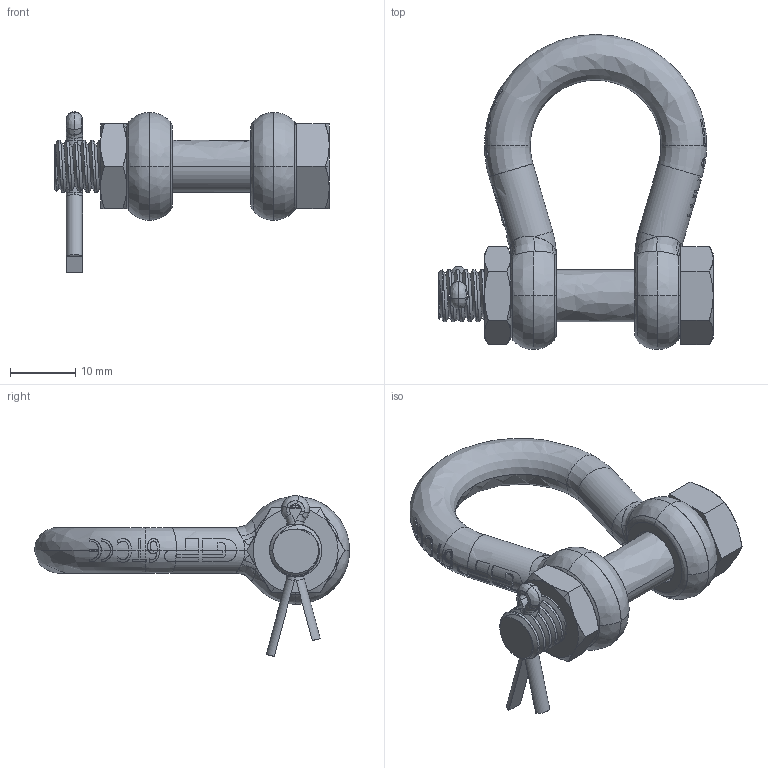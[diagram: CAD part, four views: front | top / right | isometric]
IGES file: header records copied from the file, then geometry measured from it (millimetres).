
Start section: START RECORD GO HERE.
Global section: file name: 0,5.igs; native system: Solidworks 2009                             ; preprocessor: Solidworks 2009            ; author: v.b.; organization: P4; date: 20090807.082735; units: millimetre
Bounding box: 42 x 48.25 x 24.63 mm (x, y, z)
Surface area: 5557.1 mm2 (no closed solid volume)
Topology: 0 solids, 0 shells, 449 faces, 3064 edges, 3056 vertices
Faces by surface type: revolution 169, bspline 167, plane 113
